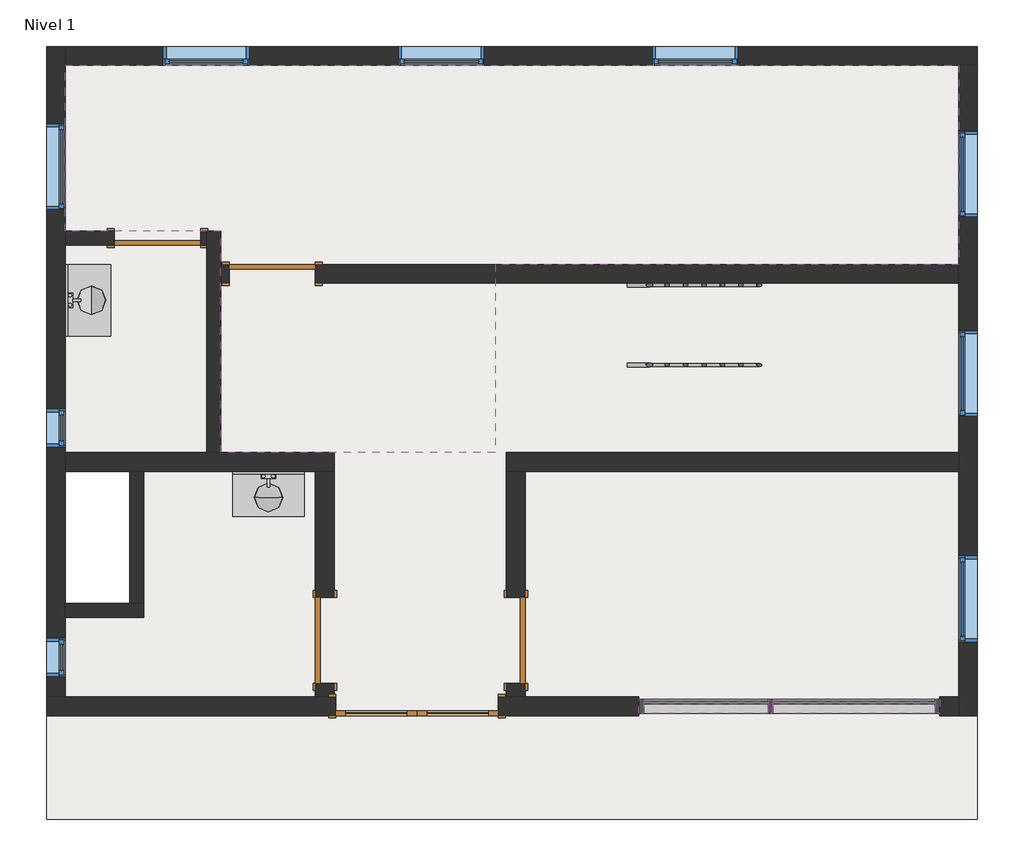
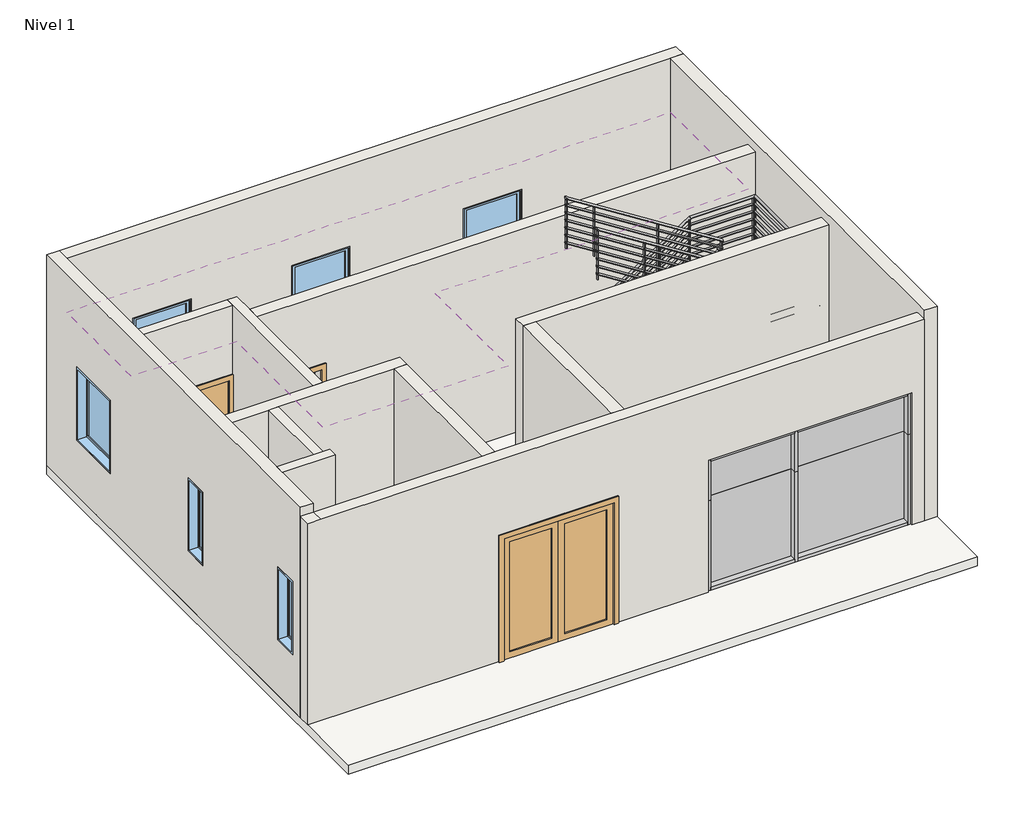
# One storey, incomplete: 13 walls, 10 members, 9 windows, 5 doors, 4 plates, 2 flow terminals, 2 railings, 1 covering, 1 slab.
"""IFC4 building model written with IfcOpenShell, lengths in millimetres."""

from ifc_helpers import new_model, si_unit, frame, origin, origin_with_axes, place, context, project, spatial, polyline, outline, extrude, faceted_brep, transform, mapped, element, save
from components import door_d93d8e0c, m_single_flush_0915_x_2134mm_6a9e8738, m_single_flush_0915_x_2134mm_727434cd, m_single_flush_0915_x_2134mm_f3d7f739, m_lavatory_vanity_760_mmx455_mm_private_5dea4168, rectangular_mullion_50mm_x_150mm_8ba0571e, rectangular_mullion_50mm_x_150mm_225b9777, rectangular_mullion_50mm_x_150mm_964d2677, rectangular_mullion_50mm_x_150mm_84253eda, rectangular_mullion_50mm_x_150mm_461a195c, rectangular_mullion_50mm_x_150mm_205d2b36, system_panel_glazed_334374ff, system_panel_glazed_2d01e38b, system_panel_glazed_6be78d54, system_panel_glazed_6f6419d9, railing_900mm_pipe_eab54b94, railing_900mm_pipe_01e83790, m_fixed_0406_x_1220mm_71a1fb2c, m_fixed_0915_x_1220mm_488fb2fb, m_fixed_0915_x_1220mm_5cd8e2eb

model = new_model("IFC4")

# Units and contexts
model_context = context("Model", 3, world=origin())
ifc_project = project(units=[si_unit("LENGTHUNIT", "METRE", prefix="MILLI")], contexts=[model_context])

# Site, building, storey
site = spatial("IfcSite", under=ifc_project)
building = spatial("IfcBuilding", under=site)
storey = spatial("IfcBuildingStorey", under=building, Name="Nivel 1", Elevation=0.0)

# Covering
placement = place(None, origin())
element("IfcCovering", 1, ObjectType="600 x 1200mm grid", at=placement, inside=storey, context=model_context, shape_type="SweptSolid", body=[
    extrude(outline(polyline([(3069.2181942, -3352.0090589), (3904.2181942, -3352.0090589), (3904.2181942, -1797.0090589), (5729.2181942, -1797.0090589), (5729.2181942, -4197.0090589), (3069.2181942, -4197.0090589), (3069.2181942, -3352.0090589)])), frame((0.0, 0.0, 2600.0), z_axis=(0.0, 0.0, 1.0), x_axis=(1.0, 0.0, 0.0)), (0.0, 0.0, 1.0), 52.0),
    extrude(outline(polyline([(12569.2181942, 2522.9909411), (12569.2181942, 404.5332903), (7639.6809687, 404.5332903), (7639.6809687, -1597.0090589), (4724.2181942, -1597.0090589), (4724.2181942, 757.9909411), (3069.2181942, 757.9909411), (3069.2181942, 2522.9909411), (12569.2181942, 2522.9909411)])), frame((0.0, 0.0, 2600.0), z_axis=(0.0, 0.0, 1.0), x_axis=(1.0, 0.0, 0.0)), (0.0, 0.0, 1.0), 52.0),
    extrude(outline(polyline([(5929.2181942, -4197.0090589), (5929.2181942, -1797.0090589), (12569.2181942, -1797.0090589), (12569.2181942, -4197.0090589), (5929.2181942, -4197.0090589)])), frame((0.0, 0.0, 2600.0), z_axis=(0.0, 0.0, 1.0), x_axis=(1.0, 0.0, 0.0)), (0.0, 0.0, 1.0), 52.0),
    extrude(outline(polyline([(3069.2181942, -1597.0090589), (3069.2181942, 607.9909411), (4574.2181942, 607.9909411), (4574.2181942, -1597.0090589), (3069.2181942, -1597.0090589)])), frame((0.0, 0.0, 2600.0), z_axis=(0.0, 0.0, 1.0), x_axis=(1.0, 0.0, 0.0)), (0.0, 0.0, 1.0), 52.0),
])

# Doors
door_shape = door_d93d8e0c(model_context)
element("IfcDoor", 2, ObjectType="Door-Double-Glass : 68\" x 80\"", at=placement, inside=storey, context=model_context, shape_type="MappedRepresentation", body=[
    mapped(door_shape, transform((6809.2181942, -4294.6278089, 0.0), x_axis=(-1.0, 0.0, 0.0), y_axis=(0.0, -1.0, 0.0), z_axis=(0.0, 0.0, 1.0))),
])
m_single_flush_0915_x_2134mm_shape = m_single_flush_0915_x_2134mm_6a9e8738(model_context)
element("IfcDoor", 3, ObjectType="M_Single-Flush : 0915 x 2134mm", at=placement, inside=storey, context=model_context, shape_type="MappedRepresentation", body=[
    mapped(m_single_flush_0915_x_2134mm_shape, transform((7859.6809687, -3597.0090589, 0.0), x_axis=(0.0, -1.0, 0.0), y_axis=(1.0, 0.0, 0.0), z_axis=(0.0, 0.0, 1.0))),
])
m_single_flush_0915_x_2134mm_2_shape = m_single_flush_0915_x_2134mm_727434cd(model_context)
element("IfcDoor", 4, ObjectType="M_Single-Flush : 0915 x 2134mm", at=placement, inside=storey, context=model_context, shape_type="MappedRepresentation", body=[
    mapped(m_single_flush_0915_x_2134mm_2_shape, transform((5829.2181942, -3597.0090589, 0.0), x_axis=(0.0, -1.0, 0.0), y_axis=(1.0, 0.0, 0.0), z_axis=(0.0, 0.0, 1.0))),
])
element("IfcDoor", 5, ObjectType="M_Single-Flush : 0915 x 2134mm", at=placement, inside=storey, context=model_context, shape_type="MappedRepresentation", body=[
    mapped(m_single_flush_0915_x_2134mm_2_shape, transform((5269.2181942, 304.5332903, 0.0), x_axis=(-1.0, 0.0, 0.0), y_axis=(0.0, -1.0, 0.0), z_axis=(0.0, 0.0, 1.0))),
])
m_single_flush_0915_x_2134mm_3_shape = m_single_flush_0915_x_2134mm_f3d7f739(model_context)
element("IfcDoor", 6, ObjectType="M_Single-Flush : 0915 x 2134mm", at=placement, inside=storey, context=model_context, shape_type="MappedRepresentation", body=[
    mapped(m_single_flush_0915_x_2134mm_3_shape, transform((4049.2181942, 682.9909411, 0.0), x_axis=(1.0, 0.0, 0.0), y_axis=(0.0, 1.0, 0.0), z_axis=(0.0, 0.0, 1.0))),
])

# Flow terminals
m_lavatory_vanity_760_mmx455_mm_private_shape = m_lavatory_vanity_760_mmx455_mm_private_5dea4168(model_context)
element("IfcFlowTerminal", 7, ObjectType="M_Lavatory - Vanity : 760 mmx455 mm - Private", at=placement, inside=storey, context=model_context, shape_type="MappedRepresentation", body=[
    mapped(m_lavatory_vanity_760_mmx455_mm_private_shape, transform((5229.2181942, -1797.0090589, 0.0), x_axis=(0.0, -1.0, 0.0), y_axis=(1.0, 0.0, 0.0), z_axis=(0.0, 0.0, 1.0))),
])
element("IfcFlowTerminal", 8, ObjectType="M_Lavatory - Vanity : 760 mmx455 mm - Private", at=placement, inside=storey, context=model_context, shape_type="MappedRepresentation", body=[
    mapped(m_lavatory_vanity_760_mmx455_mm_private_shape, transform((3069.2181942, 22.9909411, 0.0), x_axis=(1.0, 0.0, 0.0), y_axis=(0.0, 1.0, 0.0), z_axis=(0.0, 0.0, 1.0))),
])

# Members
rectangular_mullion_50mm_x_150mm_shape = rectangular_mullion_50mm_x_150mm_8ba0571e(model_context)
element("IfcMember", 9, ObjectType="Rectangular Mullion : 50mm x 150mm", at=placement, inside=storey, context=model_context, shape_type="MappedRepresentation", body=[
    mapped(rectangular_mullion_50mm_x_150mm_shape, transform((10594.2181939, -4297.0090589, 2200.0), x_axis=(0.0, 0.0, 1.0), y_axis=(0.0, 1.0, 0.0), z_axis=(-1.0, 0.0, 0.0))),
])
rectangular_mullion_50mm_x_150mm_2_shape = rectangular_mullion_50mm_x_150mm_225b9777(model_context)
element("IfcMember", 10, ObjectType="Rectangular Mullion : 50mm x 150mm", at=placement, inside=storey, context=model_context, shape_type="MappedRepresentation", body=[
    mapped(rectangular_mullion_50mm_x_150mm_2_shape, transform((10544.2181939, -4297.0090589, 0.0), x_axis=(0.0, 0.0, -1.0), y_axis=(0.0, 1.0, 0.0), z_axis=(1.0, 0.0, 0.0))),
])
element("IfcMember", 11, ObjectType="Rectangular Mullion : 50mm x 150mm", at=placement, inside=storey, context=model_context, shape_type="MappedRepresentation", body=[
    mapped(rectangular_mullion_50mm_x_150mm_shape, transform((12319.2181942, -4297.0090589, 0.0), x_axis=(0.0, 0.0, -1.0), y_axis=(0.0, 1.0, 0.0), z_axis=(1.0, 0.0, 0.0))),
])
element("IfcMember", 12, ObjectType="Rectangular Mullion : 50mm x 150mm", at=placement, inside=storey, context=model_context, shape_type="MappedRepresentation", body=[
    mapped(rectangular_mullion_50mm_x_150mm_2_shape, transform((9219.2181942, -4297.0090589, 2200.0), x_axis=(0.0, 0.0, 1.0), y_axis=(0.0, 1.0, 0.0), z_axis=(-1.0, 0.0, 0.0))),
])
rectangular_mullion_50mm_x_150mm_3_shape = rectangular_mullion_50mm_x_150mm_964d2677(model_context)
element("IfcMember", 13, ObjectType="Rectangular Mullion : 50mm x 150mm", at=placement, inside=storey, context=model_context, shape_type="MappedRepresentation", body=[
    mapped(rectangular_mullion_50mm_x_150mm_3_shape, transform((10569.2181939, -4297.0090589, 0.0), x_axis=(-1.0, 0.0, 0.0), y_axis=(0.0, 1.0, 0.0), z_axis=(0.0, 0.0, -1.0))),
])
rectangular_mullion_50mm_x_150mm_4_shape = rectangular_mullion_50mm_x_150mm_84253eda(model_context)
element("IfcMember", 14, ObjectType="Rectangular Mullion : 50mm x 150mm", at=placement, inside=storey, context=model_context, shape_type="MappedRepresentation", body=[
    mapped(rectangular_mullion_50mm_x_150mm_4_shape, transform((10569.2181939, -4297.0090589, 1500.0), x_axis=(-1.0, 0.0, 0.0), y_axis=(0.0, 1.0, 0.0), z_axis=(0.0, 0.0, -1.0))),
])
rectangular_mullion_50mm_x_150mm_5_shape = rectangular_mullion_50mm_x_150mm_461a195c(model_context)
element("IfcMember", 15, ObjectType="Rectangular Mullion : 50mm x 150mm", at=placement, inside=storey, context=model_context, shape_type="MappedRepresentation", body=[
    mapped(rectangular_mullion_50mm_x_150mm_5_shape, transform((9169.2181942, -4297.0090589, 0.0), x_axis=(-1.0, 0.0, 0.0), y_axis=(0.0, 1.0, 0.0), z_axis=(0.0, 0.0, -1.0))),
])
rectangular_mullion_50mm_x_150mm_6_shape = rectangular_mullion_50mm_x_150mm_205d2b36(model_context)
element("IfcMember", 16, ObjectType="Rectangular Mullion : 50mm x 150mm", at=placement, inside=storey, context=model_context, shape_type="MappedRepresentation", body=[
    mapped(rectangular_mullion_50mm_x_150mm_6_shape, transform((12369.2181942, -4297.0090589, 2200.0), x_axis=(1.0, 0.0, 0.0), y_axis=(0.0, 1.0, 0.0), z_axis=(0.0, 0.0, 1.0))),
])
element("IfcMember", 17, ObjectType="Rectangular Mullion : 50mm x 150mm", at=placement, inside=storey, context=model_context, shape_type="MappedRepresentation", body=[
    mapped(rectangular_mullion_50mm_x_150mm_6_shape, transform((9169.2181942, -4297.0090589, 1500.0), x_axis=(-1.0, 0.0, 0.0), y_axis=(0.0, 1.0, 0.0), z_axis=(0.0, 0.0, -1.0))),
])
element("IfcMember", 18, ObjectType="Rectangular Mullion : 50mm x 150mm", at=placement, inside=storey, context=model_context, shape_type="MappedRepresentation", body=[
    mapped(rectangular_mullion_50mm_x_150mm_5_shape, transform((12369.2181942, -4297.0090589, 1500.0), x_axis=(1.0, 0.0, 0.0), y_axis=(0.0, 1.0, 0.0), z_axis=(0.0, 0.0, 1.0))),
])

# Plates
system_panel_glazed_shape = system_panel_glazed_334374ff(model_context)
element("IfcPlate", 19, ObjectType="System Panel : Glazed", at=placement, inside=storey, context=model_context, shape_type="MappedRepresentation", body=[
    mapped(system_panel_glazed_shape, transform((9881.718194, -4297.0090589, 50.0), x_axis=(-1.0, 0.0, 0.0), y_axis=(0.0, -1.0, 0.0), z_axis=(0.0, 0.0, 1.0))),
])
system_panel_glazed_2_shape = system_panel_glazed_2d01e38b(model_context)
element("IfcPlate", 20, ObjectType="System Panel : Glazed", at=placement, inside=storey, context=model_context, shape_type="MappedRepresentation", body=[
    mapped(system_panel_glazed_2_shape, transform((11456.718194, -4297.0090589, 50.0), x_axis=(-1.0, 0.0, 0.0), y_axis=(0.0, -1.0, 0.0), z_axis=(0.0, 0.0, 1.0))),
])
system_panel_glazed_3_shape = system_panel_glazed_6be78d54(model_context)
element("IfcPlate", 21, ObjectType="System Panel : Glazed", at=placement, inside=storey, context=model_context, shape_type="MappedRepresentation", body=[
    mapped(system_panel_glazed_3_shape, transform((11456.718194, -4297.0090589, 1500.0), x_axis=(-1.0, 0.0, 0.0), y_axis=(0.0, -1.0, 0.0), z_axis=(0.0, 0.0, 1.0))),
])
system_panel_glazed_4_shape = system_panel_glazed_6f6419d9(model_context)
element("IfcPlate", 22, ObjectType="System Panel : Glazed", at=placement, inside=storey, context=model_context, shape_type="MappedRepresentation", body=[
    mapped(system_panel_glazed_4_shape, transform((9881.718194, -4297.0090589, 1500.0), x_axis=(-1.0, 0.0, 0.0), y_axis=(0.0, -1.0, 0.0), z_axis=(0.0, 0.0, 1.0))),
])

# Railings
railing_900mm_pipe_shape = railing_900mm_pipe_eab54b94(model_context)
element("IfcRailing", 23, ObjectType="900mm Pipe", at=placement, inside=storey, context=model_context, shape_type="MappedRepresentation", body=[
    mapped(railing_900mm_pipe_shape, transform((0.0, 0.0, 0.0), x_axis=(1.0, 0.0, 0.0), y_axis=(0.0, 1.0, 0.0), z_axis=(0.0, 0.0, 1.0))),
])
railing_900mm_pipe_2_shape = railing_900mm_pipe_01e83790(model_context)
element("IfcRailing", 24, ObjectType="900mm Pipe", at=placement, inside=storey, context=model_context, shape_type="MappedRepresentation", body=[
    mapped(railing_900mm_pipe_2_shape, transform((0.0, 0.0, 0.0), x_axis=(1.0, 0.0, 0.0), y_axis=(0.0, 1.0, 0.0), z_axis=(0.0, 0.0, 1.0))),
])

# Slab
element("IfcSlab", 25, ObjectType="Generic Floor - 400mm", at=placement, inside=storey, context=model_context, shape_type="SweptSolid", body=[
    extrude(outline(polyline([(2869.2181942, -5497.0090589), (2869.2181942, 2722.9909411), (12769.2181942, 2722.9909411), (12769.2181942, -5497.0090589), (2869.2181942, -5497.0090589)]), holes=[polyline([(3754.2181942, -3202.0090589), (3754.2181942, -1797.0090589), (3069.2181942, -1797.0090589), (3069.2181942, -3202.0090589), (3754.2181942, -3202.0090589)])]), frame((0.0, 0.0, -150.0), z_axis=(0.0, 0.0, 1.0), x_axis=(1.0, 0.0, 0.0)), (0.0, 0.0, 1.0), 150.0),
])

# Walls
element("IfcWall", 26, ObjectType="Generic - 150mm", at=placement, inside=storey, context=model_context, shape_type="SweptSolid", body=[
    extrude(outline(polyline([(3754.2181942, -3202.0090589), (3754.2181942, -1797.0090589), (3904.2181942, -1797.0090589), (3904.2181942, -3202.0090589), (3754.2181942, -3202.0090589)])), origin_with_axes(), (0.0, 0.0, 1.0), 3350.0),
])
element("IfcWall", 27, ObjectType="Generic - 150mm", at=placement, inside=storey, context=model_context, shape_type="Brep", body=[
    faceted_brep([(4724.2181942, -1597.0090589, 0.0), (4724.2181942, 204.5332903, 0.0), (4724.2181942, 404.5332903, 0.0), (4724.2181942, 757.9909411, 0.0), (4724.2181942, 757.9909411, 3350.0), (4724.2181942, 404.5332903, 3350.0), (4724.2181942, 204.5332903, 3350.0), (4724.2181942, -1597.0090589, 3350.0), (4574.2181942, -1597.0090589, 0.0), (4574.2181942, -1597.0090589, 3350.0), (4574.2181942, 607.9909411, 3350.0), (4574.2181942, 757.9909411, 3350.0), (4574.2181942, 757.9909411, 0.0), (4574.2181942, 607.9909411, 0.0)], [[[0, 1, 2, 3, 4, 5, 6, 7]], [[8, 9, 10, 11, 12, 13]], [[3, 2, 1, 0, 8, 13, 12]], [[7, 6, 5, 4, 11, 10, 9]], [[0, 7, 9, 8]], [[4, 3, 12, 11]]]),
])
element("IfcWall", 28, ObjectType="Generic - 150mm", at=placement, inside=storey, context=model_context, shape_type="SweptSolid", body=[
    extrude(outline(polyline([(2134.0, 4506.7181942), (0.0, 4506.7181942), (0.0, 4574.2181942), (3350.0, 4574.2181942), (3350.0, 3069.2181942), (0.0, 3069.2181942), (0.0, 3591.7181942), (2134.0, 3591.7181942), (2134.0, 4506.7181942)])), frame((0.0, 607.9909411, 0.0), z_axis=(0.0, 1.0, 0.0), x_axis=(0.0, 0.0, 1.0)), (0.0, 0.0, 1.0), 150.0),
])
element("IfcWall", 29, ObjectType="Generic - 150mm", at=placement, inside=storey, context=model_context, shape_type="Brep", body=[
    faceted_brep([(3069.2181942, -3352.0090589, 0.0), (3904.2181942, -3352.0090589, 0.0), (3904.2181942, -3352.0090589, 3500.0), (3069.2181942, -3352.0090589, 3500.0), (3069.2181942, -3202.0090589, 0.0), (3069.2181942, -3202.0090589, 3500.0), (3904.2181942, -3202.0090589, 3500.0), (3904.2181942, -3202.0090589, 3350.0), (3904.2181942, -3202.0090589, 0.0), (3754.2181942, -3202.0090589, 0.0)], [[[0, 1, 2, 3]], [[4, 5, 6, 7, 8, 9]], [[1, 0, 4, 9, 8]], [[3, 2, 6, 5]], [[0, 3, 5, 4]], [[2, 1, 8, 7, 6]]]),
])
element("IfcWall", 30, ObjectType="Generic - 200mm", at=placement, inside=storey, context=model_context, shape_type="Brep", body=[
    faceted_brep([(12769.2181942, 2722.9909411, 0.0), (3069.2181942, 2722.9909411, 0.0), (3069.2181942, 2722.9909411, 3500.0), (12769.2181942, 2722.9909411, 3500.0), (9311.7181942, 2722.9909411, 915.0), (10226.7181942, 2722.9909411, 915.0), (10226.7181942, 2722.9909411, 2135.0), (9311.7181942, 2722.9909411, 2135.0), (6611.7181942, 2722.9909411, 915.0), (7526.7181942, 2722.9909411, 915.0), (7526.7181942, 2722.9909411, 2135.0), (6611.7181942, 2722.9909411, 2135.0), (5026.7181942, 2722.9909411, 915.0), (5026.7181942, 2722.9909411, 2135.0), (4111.7181942, 2722.9909411, 2135.0), (4111.7181942, 2722.9909411, 915.0), (12769.2181942, 2522.9909411, 0.0), (12769.2181942, 2522.9909411, 3500.0), (12569.2181942, 2522.9909411, 3500.0), (3069.2181942, 2522.9909411, 3500.0), (3069.2181942, 2522.9909411, 0.0), (12569.2181942, 2522.9909411, 0.0), (9311.7181942, 2522.9909411, 915.0), (9311.7181942, 2522.9909411, 2135.0), (10226.7181942, 2522.9909411, 2135.0), (10226.7181942, 2522.9909411, 915.0), (6611.7181942, 2522.9909411, 915.0), (6611.7181942, 2522.9909411, 2135.0), (7526.7181942, 2522.9909411, 2135.0), (7526.7181942, 2522.9909411, 915.0), (5026.7181942, 2522.9909411, 915.0), (4111.7181942, 2522.9909411, 915.0), (4111.7181942, 2522.9909411, 2135.0), (5026.7181942, 2522.9909411, 2135.0)], [[[0, 1, 2, 3], [4, 5, 6, 7], [8, 9, 10, 11], [12, 13, 14, 15]], [[16, 17, 18, 19, 20, 21], [22, 23, 24, 25], [26, 27, 28, 29], [30, 31, 32, 33]], [[1, 0, 16, 21, 20]], [[3, 2, 19, 18, 17]], [[0, 3, 17, 16]], [[2, 1, 20, 19]], [[23, 22, 4, 7]], [[24, 23, 7, 6]], [[25, 24, 6, 5]], [[22, 25, 5, 4]], [[27, 26, 8, 11]], [[28, 27, 11, 10]], [[29, 28, 10, 9]], [[26, 29, 9, 8]], [[13, 12, 30, 33]], [[14, 13, 33, 32]], [[15, 14, 32, 31]], [[12, 15, 31, 30]]]),
])
element("IfcWall", 31, ObjectType="Generic - 200mm", at=placement, inside=storey, context=model_context, shape_type="Brep", body=[
    faceted_brep([(12769.2181942, -4397.0090589, 0.0), (12769.2181942, 2522.9909411, 0.0), (12769.2181942, 2522.9909411, 3500.0), (12769.2181942, -4397.0090589, 3500.0), (12769.2181942, -3614.5090589, 915.0), (12769.2181942, -3614.5090589, 2135.0), (12769.2181942, -2699.5090589, 2135.0), (12769.2181942, -2699.5090589, 915.0), (12769.2181942, -1214.5090589, 915.0), (12769.2181942, -1214.5090589, 2135.0), (12769.2181942, -299.5090589, 2135.0), (12769.2181942, -299.5090589, 915.0), (12769.2181942, 905.4909411, 915.0), (12769.2181942, 905.4909411, 2135.0), (12769.2181942, 1820.4909411, 2135.0), (12769.2181942, 1820.4909411, 915.0), (12569.2181942, -4397.0090589, 0.0), (12569.2181942, -4397.0090589, 3350.0), (12569.2181942, -4397.0090589, 3500.0), (12569.2181942, 2522.9909411, 3500.0), (12569.2181942, 2522.9909411, 0.0), (12569.2181942, 404.5332903, 0.0), (12569.2181942, 204.5332903, 0.0), (12569.2181942, -1597.0090589, 0.0), (12569.2181942, -1797.0090589, 0.0), (12569.2181942, -4197.0090589, 0.0), (12569.2181942, -3614.5090589, 915.0), (12569.2181942, -2699.5090589, 915.0), (12569.2181942, -2699.5090589, 2135.0), (12569.2181942, -3614.5090589, 2135.0), (12569.2181942, -1214.5090589, 915.0), (12569.2181942, -299.5090589, 915.0), (12569.2181942, -299.5090589, 2135.0), (12569.2181942, -1214.5090589, 2135.0), (12569.2181942, 905.4909411, 915.0), (12569.2181942, 1820.4909411, 915.0), (12569.2181942, 1820.4909411, 2135.0), (12569.2181942, 905.4909411, 2135.0)], [[[0, 1, 2, 3], [4, 5, 6, 7], [8, 9, 10, 11], [12, 13, 14, 15]], [[16, 17, 18, 19, 20, 21, 22, 23, 24, 25], [26, 27, 28, 29], [30, 31, 32, 33], [34, 35, 36, 37]], [[1, 0, 16, 25, 24, 23, 22, 21, 20]], [[3, 2, 19, 18]], [[0, 3, 18, 17, 16]], [[2, 1, 20, 19]], [[5, 4, 26, 29]], [[6, 5, 29, 28]], [[7, 6, 28, 27]], [[4, 7, 27, 26]], [[9, 8, 30, 33]], [[10, 9, 33, 32]], [[11, 10, 32, 31]], [[8, 11, 31, 30]], [[13, 12, 34, 37]], [[14, 13, 37, 36]], [[15, 14, 36, 35]], [[12, 15, 35, 34]]]),
])
element("IfcWall", 32, ObjectType="Generic - 200mm", at=placement, inside=storey, context=model_context, shape_type="Brep", body=[
    faceted_brep([(2869.2181942, -4397.0090589, 0.0), (5945.6181942, -4397.0090589, 0.0), (5945.6181942, -4397.0090589, 2032.0), (7672.8181942, -4397.0090589, 2032.0), (7672.8181942, -4397.0090589, 0.0), (9169.2181942, -4397.0090589, 0.0), (9169.2181942, -4397.0090589, 2200.0), (12369.2181942, -4397.0090589, 2200.0), (12369.2181942, -4397.0090589, 0.0), (12569.2181942, -4397.0090589, 0.0), (12569.2181942, -4397.0090589, 3350.0), (3069.2181942, -4397.0090589, 3350.0), (2869.2181942, -4397.0090589, 3350.0), (5945.6181942, -4197.0090589, 2032.0), (5945.6181942, -4197.0090589, 0.0), (5929.2181942, -4197.0090589, 0.0), (5729.2181942, -4197.0090589, 0.0), (3069.2181942, -4197.0090589, 0.0), (2869.2181942, -4197.0090589, 0.0), (2869.2181942, -4197.0090589, 3350.0), (3069.2181942, -4197.0090589, 3350.0), (5729.2181942, -4197.0090589, 3350.0), (5929.2181942, -4197.0090589, 3350.0), (7759.6809687, -4197.0090589, 3350.0), (7959.6809687, -4197.0090589, 3350.0), (12569.2181942, -4197.0090589, 3350.0), (12569.2181942, -4197.0090589, 0.0), (12369.2181942, -4197.0090589, 0.0), (12369.2181942, -4197.0090589, 2200.0), (9169.2181942, -4197.0090589, 2200.0), (9169.2181942, -4197.0090589, 0.0), (7959.6809687, -4197.0090589, 0.0), (7759.6809687, -4197.0090589, 0.0), (7672.8181942, -4197.0090589, 0.0), (7672.8181942, -4197.0090589, 2032.0)], [[[0, 1, 2, 3, 4, 5, 6, 7, 8, 9, 10, 11, 12]], [[13, 14, 15, 16, 17, 18, 19, 20, 21, 22, 23, 24, 25, 26, 27, 28, 29, 30, 31, 32, 33, 34]], [[26, 9, 8, 27]], [[18, 17, 16, 15, 14, 1, 0]], [[33, 32, 31, 30, 5, 4]], [[0, 12, 19, 18]], [[10, 9, 26, 25]], [[19, 12, 11, 20]], [[11, 10, 25, 24, 23, 22, 21, 20]], [[7, 28, 27, 8]], [[28, 7, 6, 29]], [[29, 6, 5, 30]], [[2, 1, 14, 13]], [[3, 2, 13, 34]], [[4, 3, 34, 33]]]),
])
element("IfcWall", 33, ObjectType="Generic - 200mm", at=placement, inside=storey, context=model_context, shape_type="Brep", body=[
    faceted_brep([(2869.2181942, 2722.9909411, 0.0), (2869.2181942, -4197.0090589, 0.0), (2869.2181942, -4197.0090589, 3350.0), (2869.2181942, -4197.0090589, 3500.0), (2869.2181942, 2722.9909411, 3500.0), (2869.2181942, -1134.0090589, 915.0), (2869.2181942, -1134.0090589, 2135.0), (2869.2181942, -1540.0090589, 2135.0), (2869.2181942, -1540.0090589, 915.0), (2869.2181942, 1900.4909411, 915.0), (2869.2181942, 1900.4909411, 2135.0), (2869.2181942, 985.4909411, 2135.0), (2869.2181942, 985.4909411, 915.0), (2869.2181942, -3574.0090589, 915.0), (2869.2181942, -3574.0090589, 2135.0), (2869.2181942, -3980.0090589, 2135.0), (2869.2181942, -3980.0090589, 915.0), (3069.2181942, 2722.9909411, 0.0), (3069.2181942, 2722.9909411, 3500.0), (3069.2181942, 2522.9909411, 3500.0), (3069.2181942, -3202.0090589, 3500.0), (3069.2181942, -3352.0090589, 3500.0), (3069.2181942, -4197.0090589, 3500.0), (3069.2181942, -4197.0090589, 0.0), (3069.2181942, -3352.0090589, 0.0), (3069.2181942, -3202.0090589, 0.0), (3069.2181942, -1797.0090589, 0.0), (3069.2181942, -1597.0090589, 0.0), (3069.2181942, 607.9909411, 0.0), (3069.2181942, 757.9909411, 0.0), (3069.2181942, 2522.9909411, 0.0), (3069.2181942, -1134.0090589, 915.0), (3069.2181942, -1540.0090589, 915.0), (3069.2181942, -1540.0090589, 2135.0), (3069.2181942, -1134.0090589, 2135.0), (3069.2181942, 1900.4909411, 915.0), (3069.2181942, 985.4909411, 915.0), (3069.2181942, 985.4909411, 2135.0), (3069.2181942, 1900.4909411, 2135.0), (3069.2181942, -3574.0090589, 915.0), (3069.2181942, -3980.0090589, 915.0), (3069.2181942, -3980.0090589, 2135.0), (3069.2181942, -3574.0090589, 2135.0)], [[[0, 1, 2, 3, 4], [5, 6, 7, 8], [9, 10, 11, 12], [13, 14, 15, 16]], [[17, 18, 19, 20, 21, 22, 23, 24, 25, 26, 27, 28, 29, 30], [31, 32, 33, 34], [35, 36, 37, 38], [39, 40, 41, 42]], [[1, 0, 17, 30, 29, 28, 27, 26, 25, 24, 23]], [[4, 3, 22, 21, 20, 19, 18]], [[0, 4, 18, 17]], [[3, 2, 1, 23, 22]], [[6, 5, 31, 34]], [[7, 6, 34, 33]], [[8, 7, 33, 32]], [[5, 8, 32, 31]], [[10, 9, 35, 38]], [[11, 10, 38, 37]], [[12, 11, 37, 36]], [[9, 12, 36, 35]], [[14, 13, 39, 42]], [[15, 14, 42, 41]], [[16, 15, 41, 40]], [[13, 16, 40, 39]]]),
])
element("IfcWall", 34, ObjectType="Generic - 200mm", at=placement, inside=storey, context=model_context, shape_type="SweptSolid", body=[
    extrude(outline(polyline([(0.0, 4724.2181942), (0.0, 4811.7181942), (2134.0, 4811.7181942), (2134.0, 5726.7181942), (0.0, 5726.7181942), (0.0, 12569.2181942), (3350.0, 12569.2181942), (3350.0, 4724.2181942), (0.0, 4724.2181942)])), frame((0.0, 204.5332903, 0.0), z_axis=(0.0, 1.0, 0.0), x_axis=(0.0, 0.0, 1.0)), (0.0, 0.0, 1.0), 200.0),
])
element("IfcWall", 35, ObjectType="Generic - 200mm", at=placement, inside=storey, context=model_context, shape_type="SweptSolid", body=[
    extrude(outline(polyline([(-4054.5090589, 2134.0), (-4054.5090589, 0.0), (-4197.0090589, 0.0), (-4197.0090589, 3350.0), (-1797.0090589, 3350.0), (-1797.0090589, 0.0), (-3139.5090589, 0.0), (-3139.5090589, 2134.0), (-4054.5090589, 2134.0)])), frame((5729.2181942, 0.0, 0.0), z_axis=(1.0, 0.0, 0.0), x_axis=(0.0, 1.0, 0.0)), (0.0, 0.0, 1.0), 200.0),
])
element("IfcWall", 36, ObjectType="Generic - 200mm", at=placement, inside=storey, context=model_context, shape_type="Brep", body=[
    faceted_brep([(5929.2181942, -1597.0090589, 0.0), (4724.2181942, -1597.0090589, 0.0), (4574.2181942, -1597.0090589, 0.0), (3069.2181942, -1597.0090589, 0.0), (3069.2181942, -1597.0090589, 3350.0), (4574.2181942, -1597.0090589, 3350.0), (4724.2181942, -1597.0090589, 3350.0), (5929.2181942, -1597.0090589, 3350.0), (5929.2181942, -1797.0090589, 0.0), (5929.2181942, -1797.0090589, 3350.0), (5729.2181942, -1797.0090589, 3350.0), (3904.2181942, -1797.0090589, 3350.0), (3754.2181942, -1797.0090589, 3350.0), (3069.2181942, -1797.0090589, 3350.0), (3069.2181942, -1797.0090589, 0.0), (3754.2181942, -1797.0090589, 0.0), (3904.2181942, -1797.0090589, 0.0), (5729.2181942, -1797.0090589, 0.0)], [[[0, 1, 2, 3, 4, 5, 6, 7]], [[8, 9, 10, 11, 12, 13, 14, 15, 16, 17]], [[3, 2, 1, 0, 8, 17, 16, 15, 14]], [[7, 6, 5, 4, 13, 12, 11, 10, 9]], [[4, 3, 14, 13]], [[0, 7, 9, 8]]]),
])
element("IfcWall", 37, ObjectType="Generic - 200mm", at=placement, inside=storey, context=model_context, shape_type="Brep", body=[
    faceted_brep([(12569.2181942, -1597.0090589, 0.0), (7759.6809687, -1597.0090589, 0.0), (7759.6809687, -1597.0090589, 3350.0), (12569.2181942, -1597.0090589, 3350.0), (12569.2181942, -1797.0090589, 0.0), (12569.2181942, -1797.0090589, 3350.0), (7959.6809687, -1797.0090589, 3350.0), (7759.6809687, -1797.0090589, 3350.0), (7759.6809687, -1797.0090589, 0.0), (7959.6809687, -1797.0090589, 0.0)], [[[0, 1, 2, 3]], [[4, 5, 6, 7, 8, 9]], [[1, 0, 4, 9, 8]], [[3, 2, 7, 6, 5]], [[0, 3, 5, 4]], [[2, 1, 8, 7]]]),
])
element("IfcWall", 38, ObjectType="Generic - 200mm", at=placement, inside=storey, context=model_context, shape_type="SweptSolid", body=[
    extrude(outline(polyline([(-4054.5090589, 2134.0), (-4054.5090589, 0.0), (-4197.0090589, 0.0), (-4197.0090589, 3350.0), (-1797.0090589, 3350.0), (-1797.0090589, 0.0), (-3139.5090589, 0.0), (-3139.5090589, 2134.0), (-4054.5090589, 2134.0)])), frame((7759.6809687, 0.0, 0.0), z_axis=(1.0, 0.0, 0.0), x_axis=(0.0, 1.0, 0.0)), (0.0, 0.0, 1.0), 200.0),
])

# Windows
m_fixed_0406_x_1220mm_shape = m_fixed_0406_x_1220mm_71a1fb2c(model_context)
element("IfcWindow", 39, ObjectType="M_Fixed : 0406 x 1220mm", at=placement, inside=storey, context=model_context, shape_type="MappedRepresentation", body=[
    mapped(m_fixed_0406_x_1220mm_shape, transform((2956.2181942, -1337.0090589, 0.0), x_axis=(0.0, -1.0, 0.0), y_axis=(1.0, 0.0, 0.0), z_axis=(0.0, 0.0, 1.0))),
])
element("IfcWindow", 40, ObjectType="M_Fixed : 0406 x 1220mm", at=placement, inside=storey, context=model_context, shape_type="MappedRepresentation", body=[
    mapped(m_fixed_0406_x_1220mm_shape, transform((2956.2181942, -3777.0090589, 0.0), x_axis=(0.0, -1.0, 0.0), y_axis=(1.0, 0.0, 0.0), z_axis=(0.0, 0.0, 1.0))),
])
m_fixed_0915_x_1220mm_shape = m_fixed_0915_x_1220mm_488fb2fb(model_context)
element("IfcWindow", 41, ObjectType="M_Fixed : 0915 x 1220mm", at=placement, inside=storey, context=model_context, shape_type="MappedRepresentation", body=[
    mapped(m_fixed_0915_x_1220mm_shape, transform((12682.2181942, -3157.0090589, 0.0), x_axis=(0.0, 1.0, 0.0), y_axis=(-1.0, 0.0, 0.0), z_axis=(0.0, 0.0, 1.0))),
])
element("IfcWindow", 42, ObjectType="M_Fixed : 0915 x 1220mm", at=placement, inside=storey, context=model_context, shape_type="MappedRepresentation", body=[
    mapped(m_fixed_0915_x_1220mm_shape, transform((12682.2181942, -757.0090589, 0.0), x_axis=(0.0, 1.0, 0.0), y_axis=(-1.0, 0.0, 0.0), z_axis=(0.0, 0.0, 1.0))),
])
element("IfcWindow", 43, ObjectType="M_Fixed : 0915 x 1220mm", at=placement, inside=storey, context=model_context, shape_type="MappedRepresentation", body=[
    mapped(m_fixed_0915_x_1220mm_shape, transform((12682.2181942, 1362.9909411, 0.0), x_axis=(0.0, 1.0, 0.0), y_axis=(-1.0, 0.0, 0.0), z_axis=(0.0, 0.0, 1.0))),
])
element("IfcWindow", 44, ObjectType="M_Fixed : 0915 x 1220mm", at=placement, inside=storey, context=model_context, shape_type="MappedRepresentation", body=[
    mapped(m_fixed_0915_x_1220mm_shape, transform((4569.2181942, 2635.9909411, 0.0), x_axis=(-1.0, 0.0, 0.0), y_axis=(0.0, -1.0, 0.0), z_axis=(0.0, 0.0, 1.0))),
])
element("IfcWindow", 45, ObjectType="M_Fixed : 0915 x 1220mm", at=placement, inside=storey, context=model_context, shape_type="MappedRepresentation", body=[
    mapped(m_fixed_0915_x_1220mm_shape, transform((2956.2181942, 1442.9909411, 0.0), x_axis=(0.0, -1.0, 0.0), y_axis=(1.0, 0.0, 0.0), z_axis=(0.0, 0.0, 1.0))),
])
m_fixed_0915_x_1220mm_2_shape = m_fixed_0915_x_1220mm_5cd8e2eb(model_context)
element("IfcWindow", 46, ObjectType="M_Fixed : 0915 x 1220mm", at=placement, inside=storey, context=model_context, shape_type="MappedRepresentation", body=[
    mapped(m_fixed_0915_x_1220mm_2_shape, transform((9769.2181942, 2635.9909411, 0.0), x_axis=(1.0, 0.0, 0.0), y_axis=(0.0, 1.0, 0.0), z_axis=(0.0, 0.0, 1.0))),
])
element("IfcWindow", 47, ObjectType="M_Fixed : 0915 x 1220mm", at=placement, inside=storey, context=model_context, shape_type="MappedRepresentation", body=[
    mapped(m_fixed_0915_x_1220mm_2_shape, transform((7069.2181942, 2635.9909411, 0.0), x_axis=(1.0, 0.0, 0.0), y_axis=(0.0, 1.0, 0.0), z_axis=(0.0, 0.0, 1.0))),
])

save(model, "model.ifc")
